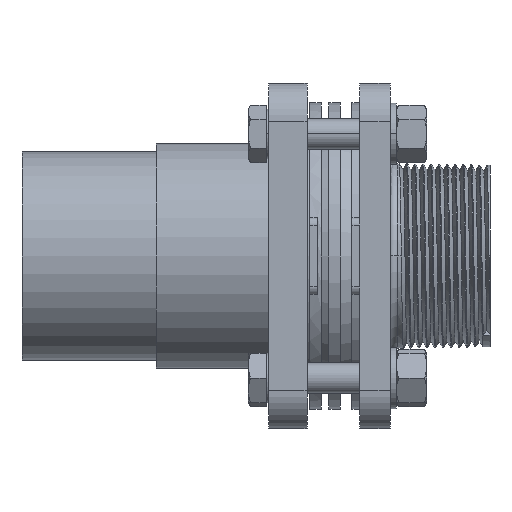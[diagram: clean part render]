
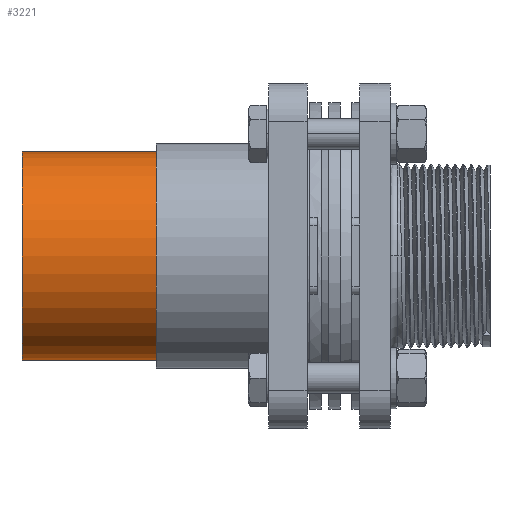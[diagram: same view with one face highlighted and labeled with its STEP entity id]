
A CAD part, front view. The second image highlights one B-rep face of the part: STEP entity #3221.
In plain terms, the highlighted cylindrical face has radius 27.125 mm (diameter 54.25 mm), a partial arc.
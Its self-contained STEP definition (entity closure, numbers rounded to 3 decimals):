
#1684 = LINE ( 'NONE', #1691, #10106 ) ;
#1691 = CARTESIAN_POINT ( 'NONE',  ( -10., 0., 27.125 ) ) ;
#1695 = CARTESIAN_POINT ( 'NONE',  ( -10., 0., -27.125 ) ) ;
#1699 = DIRECTION ( 'NONE',  ( -1., 0., 0. ) ) ;
#1702 = LINE ( 'NONE', #1695, #10104 ) ;
#1706 = DIRECTION ( 'NONE',  ( -1., 0., 0. ) ) ;
#2101 = AXIS2_PLACEMENT_3D ( 'NONE', #16049, #16045, #16051 ) ;
#2972 = ORIENTED_EDGE ( 'NONE', *, *, #14000, .F. ) ;
#2973 = ORIENTED_EDGE ( 'NONE', *, *, #9168, .F. ) ;
#2974 = ORIENTED_EDGE ( 'NONE', *, *, #13998, .T. ) ;
#2975 = ORIENTED_EDGE ( 'NONE', *, *, #9186, .T. ) ;
#3221 = ADVANCED_FACE ( 'NONE', ( #16048 ), #16050, .T. ) ;
#9168 = EDGE_CURVE ( 'NONE', #13153, #13192, #12693, .T. ) ;
#9186 = EDGE_CURVE ( 'NONE', #13166, #13177, #12736, .T. ) ;
#9487 = CARTESIAN_POINT ( 'NONE',  ( -10., 0., 27.125 ) ) ;
#9500 = CARTESIAN_POINT ( 'NONE',  ( -75., 0., 27.125 ) ) ;
#9511 = CARTESIAN_POINT ( 'NONE',  ( -75., 0., -27.125 ) ) ;
#9526 = CARTESIAN_POINT ( 'NONE',  ( -10., 0., -27.125 ) ) ;
#10104 = VECTOR ( 'NONE', #1706, 1000. ) ;
#10106 = VECTOR ( 'NONE', #1699, 1000. ) ;
#12693 = CIRCLE ( 'NONE', #12705, 27.125 ) ;
#12705 = AXIS2_PLACEMENT_3D ( 'NONE', #14474, #14475, #14476 ) ;
#12736 = CIRCLE ( 'NONE', #12741, 27.125 ) ;
#12741 = AXIS2_PLACEMENT_3D ( 'NONE', #14528, #14529, #14530 ) ;
#13153 = VERTEX_POINT ( 'NONE', #9487 ) ;
#13166 = VERTEX_POINT ( 'NONE', #9500 ) ;
#13177 = VERTEX_POINT ( 'NONE', #9511 ) ;
#13192 = VERTEX_POINT ( 'NONE', #9526 ) ;
#13312 = EDGE_LOOP ( 'NONE', ( #2972, #2973, #2974, #2975 ) ) ;
#13998 = EDGE_CURVE ( 'NONE', #13153, #13166, #1684, .T. ) ;
#14000 = EDGE_CURVE ( 'NONE', #13192, #13177, #1702, .T. ) ;
#14474 = CARTESIAN_POINT ( 'NONE',  ( -10., 0., 0. ) ) ;
#14475 = DIRECTION ( 'NONE',  ( 1., 0., 0. ) ) ;
#14476 = DIRECTION ( 'NONE',  ( 0., 0., -1. ) ) ;
#14528 = CARTESIAN_POINT ( 'NONE',  ( -75., 0., 0. ) ) ;
#14529 = DIRECTION ( 'NONE',  ( 1., 0., 0. ) ) ;
#14530 = DIRECTION ( 'NONE',  ( 0., 0., -1. ) ) ;
#16045 = DIRECTION ( 'NONE',  ( -1., 0., 0. ) ) ;
#16048 = FACE_OUTER_BOUND ( 'NONE', #13312, .T. ) ;
#16049 = CARTESIAN_POINT ( 'NONE',  ( -10., 0., 0. ) ) ;
#16050 = CYLINDRICAL_SURFACE ( 'NONE', #2101, 27.125 ) ;
#16051 = DIRECTION ( 'NONE',  ( 0., 0., 1. ) ) ;
